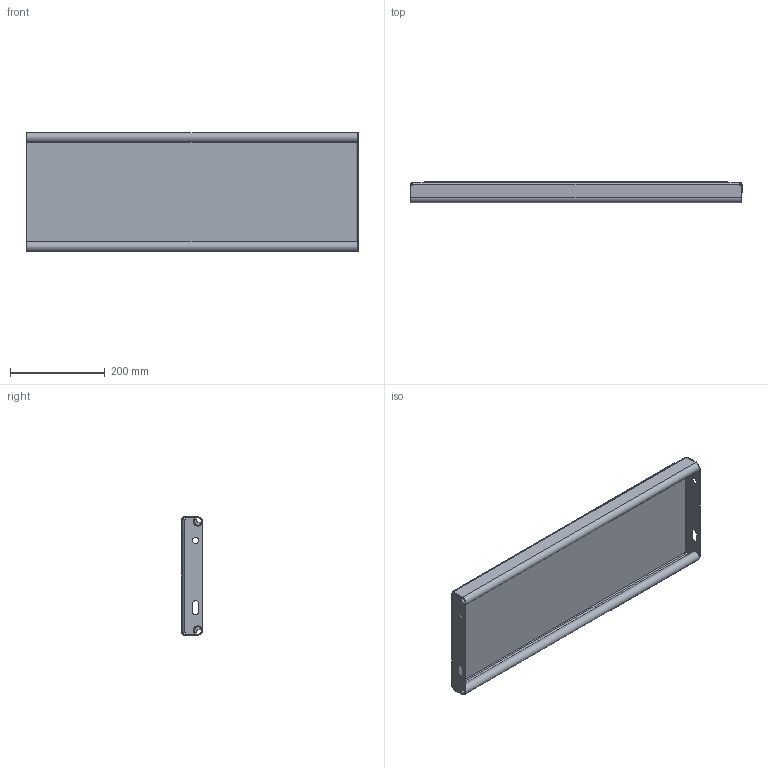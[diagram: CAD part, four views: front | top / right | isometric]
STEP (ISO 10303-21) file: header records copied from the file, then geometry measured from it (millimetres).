
FILE_DESCRIPTION (( 'STEP AP214' ), '1' );
FILE_NAME ('OPTIMO-Tread-Achil-O2-700x250x45x2-st240-F100330100_plain.STEP', '2021-03-16T13:58:04', ( '' ), ( '' ), 'SwSTEP 2.0', 'SolidWorks 2021', '' );
FILE_SCHEMA (( 'AUTOMOTIVE_DESIGN' ));
Length unit declared in the file: millimetre
Products named in the file (1): OPTIMO-Tread-Achil-O2-700x250x45x2-st240-F100330100_plain
Bounding box: 700 x 45 x 250 mm (x, y, z)
Volume: 1065200.1 mm3; surface area: 611303.9 mm2
Topology: 1 solids, 1 shells, 248 faces, 640 edges, 412 vertices
Faces by surface type: plane 173, bspline 39, cylinder 36
Entity records: 9924 total; most frequent: CARTESIAN_POINT 4092, ORIENTED_EDGE 1280, DIRECTION 1022, EDGE_CURVE 640, VECTOR 490, LINE 490, VERTEX_POINT 412, EDGE_LOOP 274
